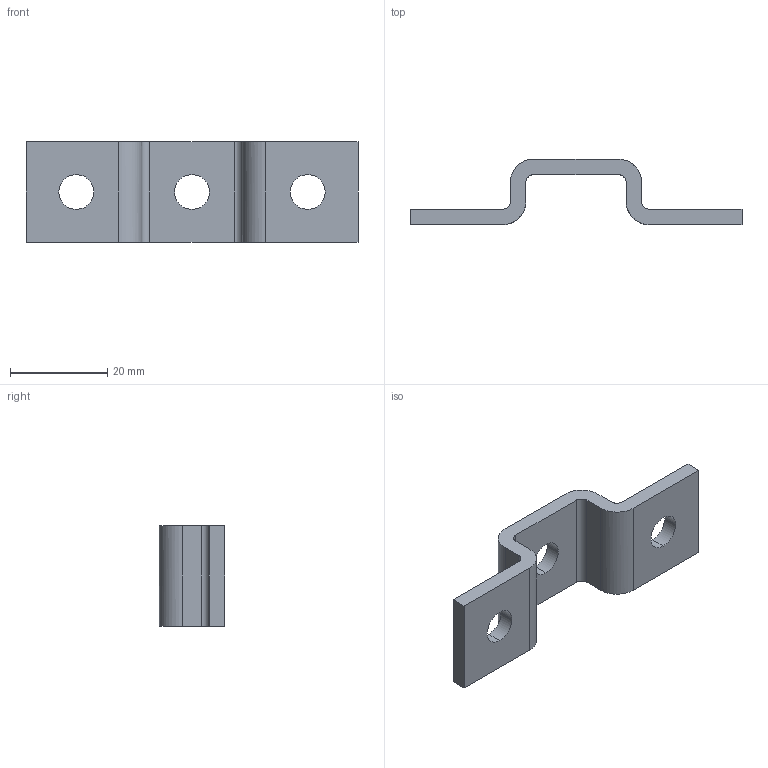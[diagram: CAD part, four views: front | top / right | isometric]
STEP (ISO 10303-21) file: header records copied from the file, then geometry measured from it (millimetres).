
FILE_DESCRIPTION(('TurboCAD Mac Pro'),'Build 980');
FILE_NAME('P7047.stp',' ',(''),(''),'ACIS Interop','IMSI','TurboCAD Mac Pro BY IMSI, INCORPORATED');
FILE_SCHEMA(('automotive_design'));
Length unit declared in the file: inch
Products named in the file (2): 1; 2
Bounding box: 68.19 x 13.47 x 20.64 mm (x, y, z)
Volume: 5074.9 mm3; surface area: 4073 mm2
Topology: 1 solids, 1 shells, 34 faces, 96 edges, 64 vertices
Faces by surface type: bspline 20, plane 14
Entity records: 1774 total; most frequent: CARTESIAN_POINT 500, ORIENTED_EDGE 192, DIRECTION 100, EDGE_CURVE 96, LINE 68, VECTOR 68, VERTEX_POINT 64, STYLED_ITEM 55
